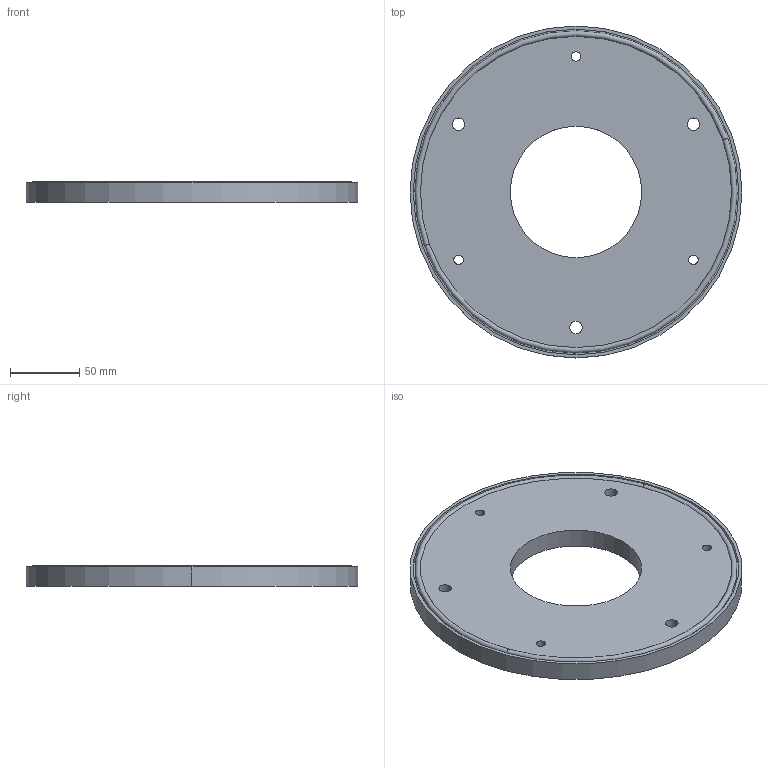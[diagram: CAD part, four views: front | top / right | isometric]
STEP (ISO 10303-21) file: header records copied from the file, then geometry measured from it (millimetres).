
FILE_DESCRIPTION (( 'STEP AP214' ), '1' );
FILE_NAME ('0828 Flansch + O-Ring.STEP', '2026-04-28T06:01:35', ( '' ), ( '' ), 'SwSTEP 2.0', 'SolidWorks 2025', '' );
FILE_SCHEMA (( 'AUTOMOTIVE_DESIGN' ));
Length unit declared in the file: millimetre
Products named in the file (3): 10075374_000; 10012544_000; 0828 Flansch + O-Ring
Assembly tree (2 placements, depth 2):
  0828 Flansch + O-Ring
    10075374_000
    10012544_000
Bounding box: 240 x 240 x 14.85 mm (x, y, z)
Volume: 527223.9 mm3; surface area: 106116.4 mm2
Topology: 2 solids, 2 shells, 28 faces, 68 edges, 44 vertices
Faces by surface type: cylinder 20, plane 4, torus 4
Entity records: 968 total; most frequent: DIRECTION 182, CARTESIAN_POINT 145, ORIENTED_EDGE 136, AXIS2_PLACEMENT_3D 81, EDGE_CURVE 68, CIRCLE 48, EDGE_LOOP 44, VERTEX_POINT 44
